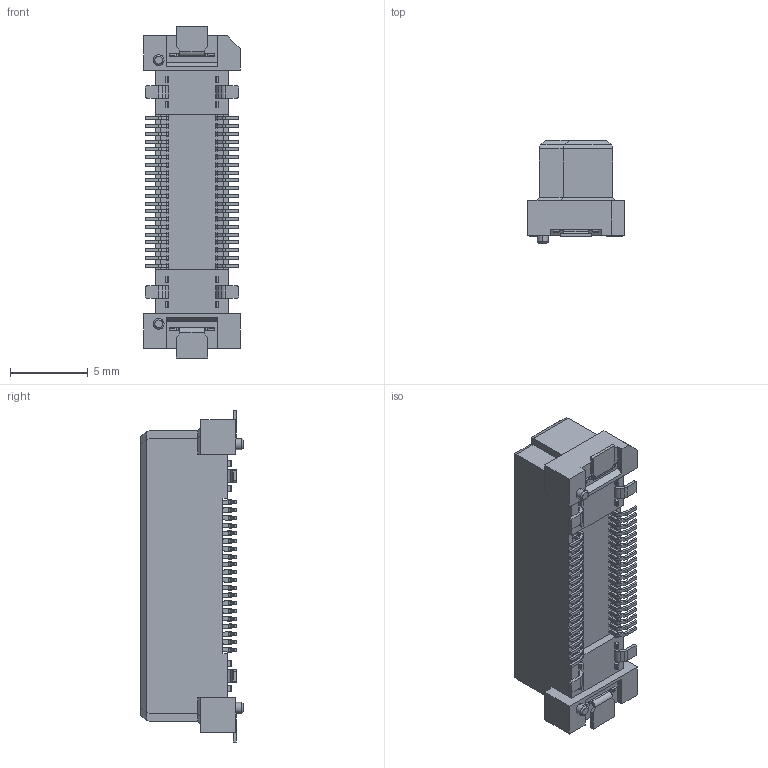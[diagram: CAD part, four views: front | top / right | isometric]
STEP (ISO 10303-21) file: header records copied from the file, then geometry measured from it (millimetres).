
FILE_DESCRIPTION(('Creo Elements/Direct Modeling STEP Export'),'2;1');
FILE_NAME('P3E603_DT11E-040S-8-T.stp','2024-03-12T14:12:53',(''),(''),'Creo Elements/Direct Modeling STEP processor for AP214 (Solid Model)','Creo Elements/Direct Modeling 20.6 25-Mar-2023 (C) Parametric Technology GmbH','');
FILE_SCHEMA(('AUTOMOTIVE_DESIGN { 1 0 10303 214 1 1 1 1 }'));
Products named in the file (1): P3E603_DT11E-040S-8-T
Bounding box: 6.2 x 6.63 x 21.4 mm (x, y, z)
Volume: 439.6 mm3; surface area: 729.6 mm2
Topology: 1 solids, 1 shells, 2053 faces, 5584 edges, 3590 vertices
Faces by surface type: plane 1585, cylinder 336, bspline 88, torus 40, cone 4
Entity records: 73661 total; most frequent: CARTESIAN_POINT 21451, ORIENTED_EDGE 11168, DIRECTION 10142, EDGE_CURVE 5584, VECTOR 4342, LINE 4342, VERTEX_POINT 3590, AXIS2_PLACEMENT_3D 2900
